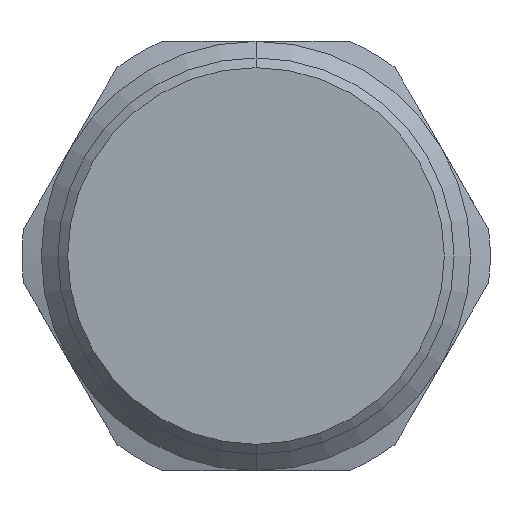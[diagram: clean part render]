
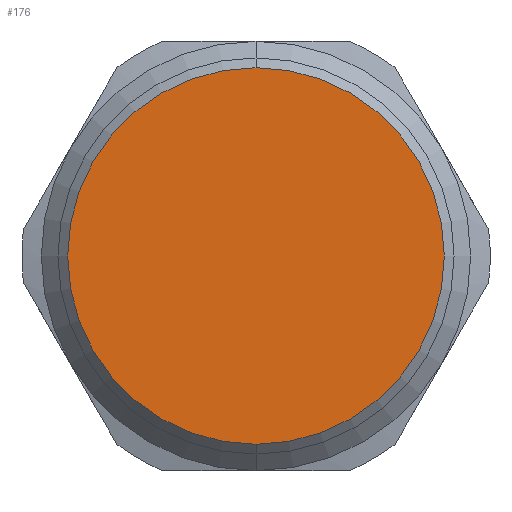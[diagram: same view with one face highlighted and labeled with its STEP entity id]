
A CAD part, front view. The second image highlights one B-rep face of the part: STEP entity #176.
In plain terms, the highlighted planar face has unit normal (0, -1, 0).
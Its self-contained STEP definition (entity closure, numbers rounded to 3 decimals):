
#151=CARTESIAN_POINT('',(0.0,-16.0,9.65));
#152=VERTEX_POINT('',#151);
#153=CARTESIAN_POINT('',(0.0,-16.0,-9.65));
#154=VERTEX_POINT('',#153);
#155=CARTESIAN_POINT('',(0.0,-16.0,0.0));
#156=DIRECTION('',(0.0,-1.0,0.0));
#157=DIRECTION('',(0.0,0.0,1.0));
#158=AXIS2_PLACEMENT_3D('',#155,#156,#157);
#159=CIRCLE('',#158,9.65);
#160=EDGE_CURVE('no 707',#152,#154,#159,.T.);
#161=ORIENTED_EDGE('',*,*,#160,.T.);
#162=CARTESIAN_POINT('',(0.0,-16.0,0.0));
#163=DIRECTION('',(0.0,-1.0,0.0));
#164=DIRECTION('',(0.0,0.0,1.0));
#165=AXIS2_PLACEMENT_3D('',#162,#163,#164);
#166=CIRCLE('',#165,9.65);
#167=EDGE_CURVE('no 711',#154,#152,#166,.T.);
#168=ORIENTED_EDGE('',*,*,#167,.T.);
#169=EDGE_LOOP('',(#161,#168));
#170=FACE_OUTER_BOUND('',#169,.T.);
#171=CARTESIAN_POINT('',(0.0,-16.0,0.0));
#172=DIRECTION('',(0.0,1.0,0.0));
#173=DIRECTION('',(0.0,0.0,1.0));
#174=AXIS2_PLACEMENT_3D('',#171,#172,#173);
#175=PLANE('',#174);
#176=ADVANCED_FACE('no 698',(#170),#175,.F.);
